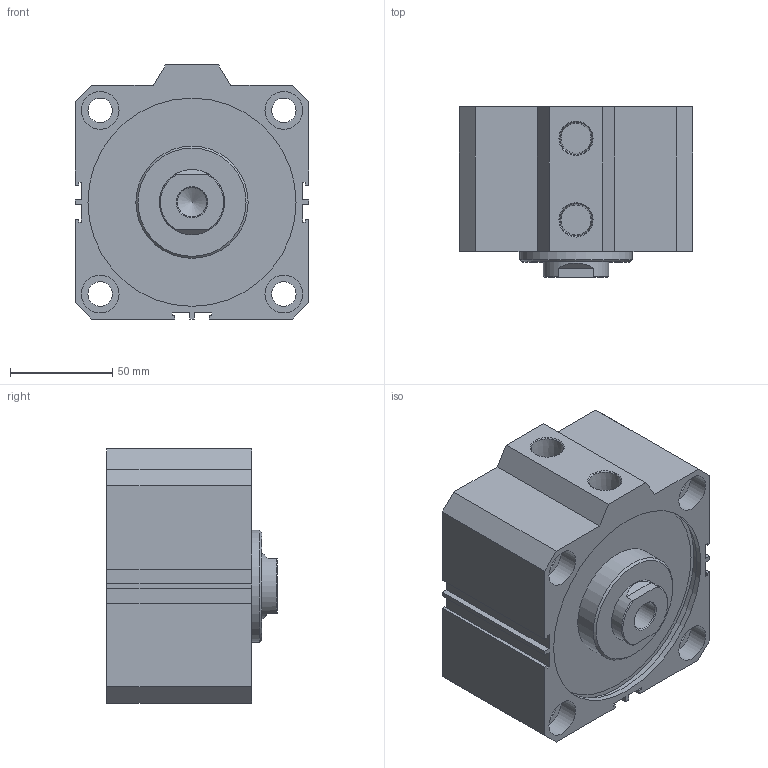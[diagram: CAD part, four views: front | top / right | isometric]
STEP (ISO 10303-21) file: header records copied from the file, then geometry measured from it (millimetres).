
FILE_DESCRIPTION(/* description */ ('Unknown'),/* implementation_level */ '2;1');
FILE_NAME(/* name */ 'WJ100-20',/* time_stamp */ '2026-07-17T16:18:09+08:00',/* author */ ('Unknown'),/* organization */ ('Unknown'),/* preprocessor_version */ 'ST-DEVELOPER v16.7',/* originating_system */ 'DEX',/* authorisation */ $);
FILE_SCHEMA (('CONFIG_CONTROL_DESIGN'));
Length unit declared in the file: millimetre
Products named in the file (5): WJ100-20; WJ100_本; WJ100_玡嶈搵; WJ100_後; WJ100_心軸活
Assembly tree (4 placements, depth 2):
  WJ100-20
    WJ100_本
    WJ100_玡嶈搵
    WJ100_後
    WJ100_心軸活
Bounding box: 114.5 x 83.5 x 124.5 mm (x, y, z)
Volume: 667345.6 mm3; surface area: 153111.4 mm2
Topology: 4 solids, 4 shells, 122 faces, 289 edges, 196 vertices
Faces by surface type: plane 81, cylinder 29, cone 12
Full cylindrical faces by diameter (mm): 12 x4, 14.376 x1, 14.75 x2, 18.5 x8, 32 x2, 55 x2, 99.5 x1, 100 x1, 102 x6, 106 x2
Entity records: 4033 total; most frequent: DIRECTION 554, CARTESIAN_POINT 546, ORIENTED_EDGE 460, EDGE_CURVE 230, AXIS2_PLACEMENT_3D 201, FACE_BOUND 195, EDGE_LOOP 194, VERTEX_POINT 177
